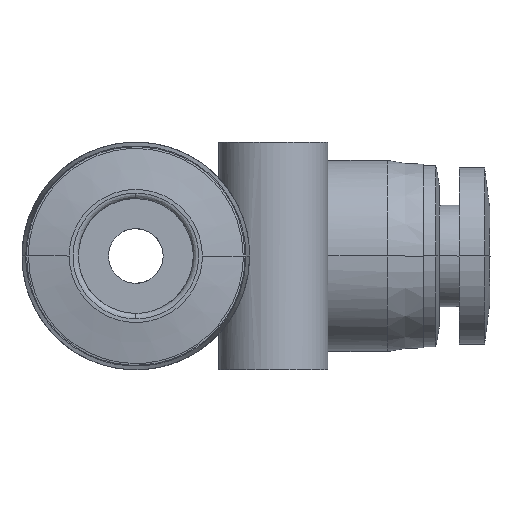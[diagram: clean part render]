
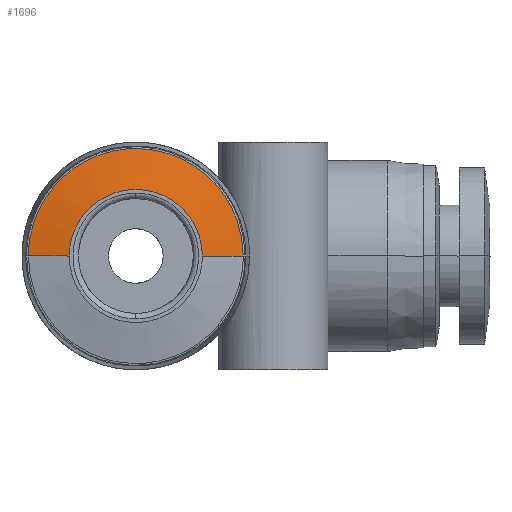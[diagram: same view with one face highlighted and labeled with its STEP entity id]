
A CAD part, front view. The second image highlights one B-rep face of the part: STEP entity #1696.
In plain terms, the highlighted conical face has half-angle 79.919 degrees and reference radius 4.775 mm.
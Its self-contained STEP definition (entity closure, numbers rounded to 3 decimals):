
#248 = CARTESIAN_POINT ( 'NONE',  ( 5.9, -31.15, 0. ) ) ;
#446 = CARTESIAN_POINT ( 'NONE',  ( 5.9, -31.15, 0.772 ) ) ;
#490 = CARTESIAN_POINT ( 'NONE',  ( 5.155, -31.15, 2.971 ) ) ;
#676 = EDGE_CURVE ( 'NONE', #6705, #4649, #1567, .T. ) ;
#1030 = VECTOR ( 'NONE', #4621, 1000. ) ;
#1330 = VERTEX_POINT ( 'NONE', #6708 ) ;
#1334 = EDGE_CURVE ( 'NONE', #1330, #6705, #1356, .T. ) ;
#1356 = B_SPLINE_CURVE_WITH_KNOTS ( 'NONE', 3,
 ( #7429, #6023, #8649, #2679, #4596, #8779, #6575, #2635, #5357, #5312, #1784, #1918, #2502, #7249, #8737, #3213, #5221, #7971 ),
 .UNSPECIFIED., .F., .F.,
 ( 4, 2, 2, 2, 2, 2, 2, 2, 4 ),
 ( 0.5, 0.563, 0.625, 0.688, 0.75, 0.813, 0.875, 0.938, 1. ),
 .UNSPECIFIED. ) ;
#1552 = VECTOR ( 'NONE', #6193, 1000. ) ;
#1567 = LINE ( 'NONE', #1749, #1552 ) ;
#1696 = ADVANCED_FACE ( 'NONE', ( #8605 ), #8067, .T. ) ;
#1744 = CARTESIAN_POINT ( 'NONE',  ( -0.772, -31.15, 5.9 ) ) ;
#1749 = CARTESIAN_POINT ( 'NONE',  ( -4.775, -31.35, 0. ) ) ;
#1784 = CARTESIAN_POINT ( 'NONE',  ( -0.95, -31.55, 3.557 ) ) ;
#1790 = CARTESIAN_POINT ( 'NONE',  ( 1.544, -31.15, 5.746 ) ) ;
#1807 = B_SPLINE_CURVE_WITH_KNOTS ( 'NONE', 3,
 ( #2375, #446, #5092, #490, #5137, #7888, #5814, #1790, #7297, #1744, #5944, #6580, #5856, #3176, #6490, #4466, #2508, #7344 ),
 .UNSPECIFIED., .F., .F.,
 ( 4, 2, 2, 2, 2, 2, 2, 2, 4 ),
 ( 0.5, 0.563, 0.625, 0.688, 0.75, 0.813, 0.875, 0.938, 1. ),
 .UNSPECIFIED. ) ;
#1918 = CARTESIAN_POINT ( 'NONE',  ( -1.844, -31.55, 3.187 ) ) ;
#2375 = CARTESIAN_POINT ( 'NONE',  ( 5.9, -31.15, 0. ) ) ;
#2456 = DIRECTION ( 'NONE',  ( 0., 1., 0. ) ) ;
#2502 = CARTESIAN_POINT ( 'NONE',  ( -2.239, -31.55, 2.923 ) ) ;
#2508 = CARTESIAN_POINT ( 'NONE',  ( -5.9, -31.15, 0.772 ) ) ;
#2635 = CARTESIAN_POINT ( 'NONE',  ( 0.95, -31.55, 3.557 ) ) ;
#2659 = LINE ( 'NONE', #6642, #1030 ) ;
#2679 = CARTESIAN_POINT ( 'NONE',  ( 3.187, -31.55, 1.844 ) ) ;
#2814 = EDGE_CURVE ( 'NONE', #1330, #4469, #2659, .T. ) ;
#3176 = CARTESIAN_POINT ( 'NONE',  ( -4.718, -31.15, 3.626 ) ) ;
#3213 = CARTESIAN_POINT ( 'NONE',  ( -3.557, -31.55, 0.95 ) ) ;
#3613 = DIRECTION ( 'NONE',  ( -1., 0., 0. ) ) ;
#3630 = CARTESIAN_POINT ( 'NONE',  ( -5.9, -31.15, 0. ) ) ;
#4466 = CARTESIAN_POINT ( 'NONE',  ( -5.746, -31.15, 1.544 ) ) ;
#4469 = VERTEX_POINT ( 'NONE', #248 ) ;
#4596 = CARTESIAN_POINT ( 'NONE',  ( 2.923, -31.55, 2.239 ) ) ;
#4621 = DIRECTION ( 'NONE',  ( 0.985, 0.175, 0. ) ) ;
#4649 = VERTEX_POINT ( 'NONE', #3630 ) ;
#5092 = CARTESIAN_POINT ( 'NONE',  ( 5.746, -31.15, 1.544 ) ) ;
#5130 = CARTESIAN_POINT ( 'NONE',  ( 0., -31.35, 0. ) ) ;
#5137 = CARTESIAN_POINT ( 'NONE',  ( 4.718, -31.15, 3.626 ) ) ;
#5221 = CARTESIAN_POINT ( 'NONE',  ( -3.65, -31.55, 0.484 ) ) ;
#5312 = CARTESIAN_POINT ( 'NONE',  ( -0.484, -31.55, 3.65 ) ) ;
#5357 = CARTESIAN_POINT ( 'NONE',  ( 0.484, -31.55, 3.65 ) ) ;
#5814 = CARTESIAN_POINT ( 'NONE',  ( 2.971, -31.15, 5.155 ) ) ;
#5856 = CARTESIAN_POINT ( 'NONE',  ( -3.626, -31.15, 4.718 ) ) ;
#5874 = EDGE_CURVE ( 'NONE', #4469, #4649, #1807, .T. ) ;
#5944 = CARTESIAN_POINT ( 'NONE',  ( -1.544, -31.15, 5.746 ) ) ;
#6023 = CARTESIAN_POINT ( 'NONE',  ( 3.65, -31.55, 0.484 ) ) ;
#6193 = DIRECTION ( 'NONE',  ( -0.985, 0.175, 0. ) ) ;
#6463 = ORIENTED_EDGE ( 'NONE', *, *, #1334, .F. ) ;
#6490 = CARTESIAN_POINT ( 'NONE',  ( -5.155, -31.15, 2.971 ) ) ;
#6575 = CARTESIAN_POINT ( 'NONE',  ( 1.844, -31.55, 3.187 ) ) ;
#6580 = CARTESIAN_POINT ( 'NONE',  ( -2.971, -31.15, 5.155 ) ) ;
#6642 = CARTESIAN_POINT ( 'NONE',  ( 4.775, -31.35, 0. ) ) ;
#6705 = VERTEX_POINT ( 'NONE', #7778 ) ;
#6708 = CARTESIAN_POINT ( 'NONE',  ( 3.65, -31.55, 0. ) ) ;
#6882 = EDGE_LOOP ( 'NONE', ( #6463, #8696, #7891, #7796 ) ) ;
#7249 = CARTESIAN_POINT ( 'NONE',  ( -2.923, -31.55, 2.239 ) ) ;
#7297 = CARTESIAN_POINT ( 'NONE',  ( 0.772, -31.15, 5.9 ) ) ;
#7344 = CARTESIAN_POINT ( 'NONE',  ( -5.9, -31.15, 0. ) ) ;
#7429 = CARTESIAN_POINT ( 'NONE',  ( 3.65, -31.55, 0. ) ) ;
#7634 = AXIS2_PLACEMENT_3D ( 'NONE', #5130, #2456, #3613 ) ;
#7778 = CARTESIAN_POINT ( 'NONE',  ( -3.65, -31.55, 0. ) ) ;
#7796 = ORIENTED_EDGE ( 'NONE', *, *, #676, .F. ) ;
#7888 = CARTESIAN_POINT ( 'NONE',  ( 3.626, -31.15, 4.718 ) ) ;
#7891 = ORIENTED_EDGE ( 'NONE', *, *, #5874, .T. ) ;
#7971 = CARTESIAN_POINT ( 'NONE',  ( -3.65, -31.55, 0. ) ) ;
#8067 = CONICAL_SURFACE ( 'NONE', #7634, 4.775, 1.395 ) ;
#8605 = FACE_OUTER_BOUND ( 'NONE', #6882, .T. ) ;
#8649 = CARTESIAN_POINT ( 'NONE',  ( 3.557, -31.55, 0.95 ) ) ;
#8696 = ORIENTED_EDGE ( 'NONE', *, *, #2814, .T. ) ;
#8737 = CARTESIAN_POINT ( 'NONE',  ( -3.187, -31.55, 1.844 ) ) ;
#8779 = CARTESIAN_POINT ( 'NONE',  ( 2.239, -31.55, 2.923 ) ) ;
